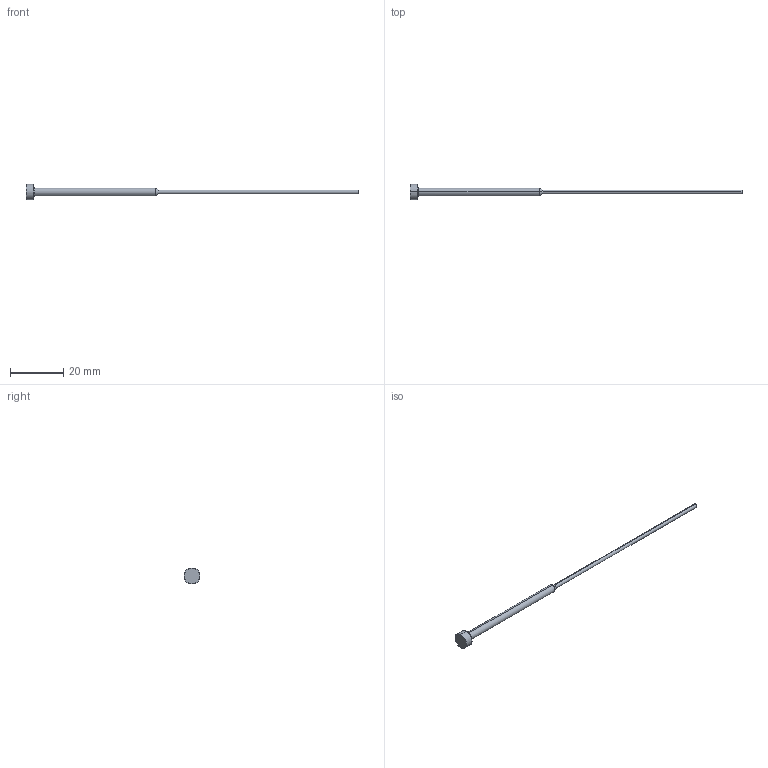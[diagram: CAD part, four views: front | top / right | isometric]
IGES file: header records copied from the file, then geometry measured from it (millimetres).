
Start section: START RECORD GO HERE.
Global section: file name: 359-1,5X3X125.igs; native system: DASSAULT SYSTEMES CATIA V5 R20 - www.3ds.com; preprocessor: CATIA Version 5 Release 20 ; author: Utente; organization: NB04-ASUS; date: 20210514.202447; units: millimetre
Bounding box: 125 x 6 x 6 mm (x, y, z)
Surface area: 901.4 mm2 (no closed solid volume)
Topology: 0 solids, 0 shells, 13 faces, 76 edges, 76 vertices
Faces by surface type: revolution 10, plane 3
